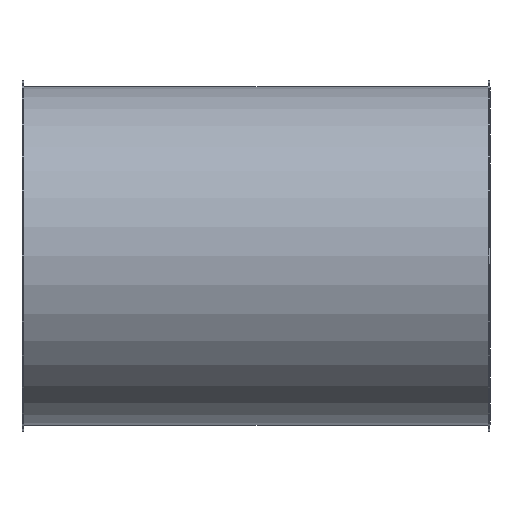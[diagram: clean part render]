
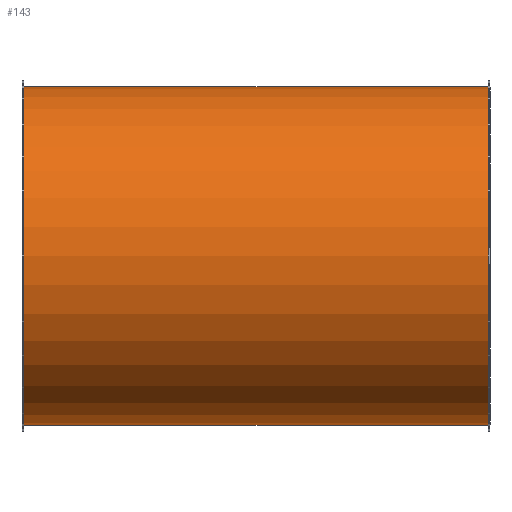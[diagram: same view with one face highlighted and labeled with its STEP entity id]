
A CAD part, front view. The second image highlights one B-rep face of the part: STEP entity #143.
In plain terms, the highlighted cylindrical face has radius 176.5 mm (diameter 353 mm), a full revolution.
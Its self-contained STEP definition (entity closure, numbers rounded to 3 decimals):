
#112=CARTESIAN_POINT('',(454.119,2.817,0.0));
#113=VERTEX_POINT('',#112);
#114=CARTESIAN_POINT('',(454.119,179.317,0.0));
#115=DIRECTION('',(-1.0,0.0,0.0));
#116=DIRECTION('',(0.0,-1.0,0.0));
#117=AXIS2_PLACEMENT_3D('',#114,#115,#116);
#118=CIRCLE('',#117,176.5);
#119=EDGE_CURVE('',#113,#113,#118,.T.);
#124=CARTESIAN_POINT('',(212.119,179.317,0.0));
#125=DIRECTION('',(-1.0,0.,0.0));
#126=DIRECTION('',(0.0,-1.0,0.0));
#127=AXIS2_PLACEMENT_3D('',#124,#125,#126);
#128=CYLINDRICAL_SURFACE('',#127,176.5);
#129=CARTESIAN_POINT('',(-29.881,2.817,0.0));
#130=VERTEX_POINT('',#129);
#131=CARTESIAN_POINT('',(-29.881,179.317,0.0));
#132=DIRECTION('',(-1.0,0.0,0.0));
#133=DIRECTION('',(0.0,-1.0,0.0));
#134=AXIS2_PLACEMENT_3D('',#131,#132,#133);
#135=CIRCLE('',#134,176.5);
#136=EDGE_CURVE('',#130,#130,#135,.T.);
#137=ORIENTED_EDGE('',*,*,#136,.F.);
#138=EDGE_LOOP('',(#137));
#139=FACE_OUTER_BOUND('',#138,.T.);
#140=ORIENTED_EDGE('',*,*,#119,.T.);
#141=EDGE_LOOP('',(#140));
#142=FACE_BOUND('',#141,.T.);
#143=ADVANCED_FACE('',(#139,#142),#128,.T.);
